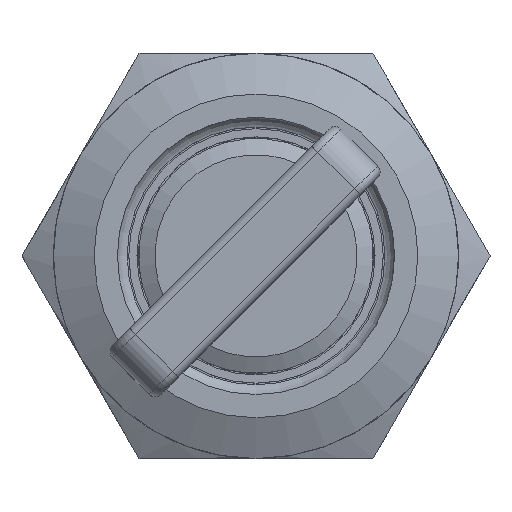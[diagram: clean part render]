
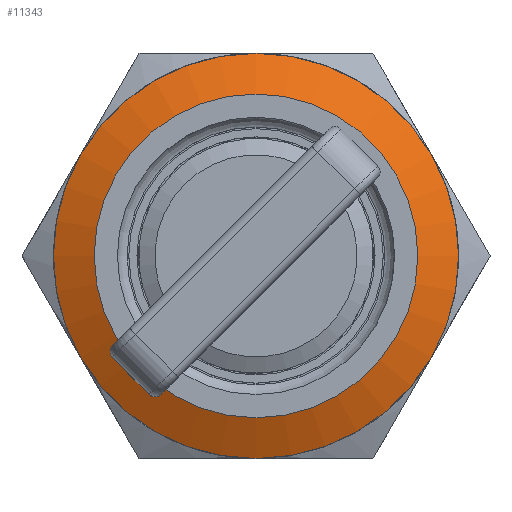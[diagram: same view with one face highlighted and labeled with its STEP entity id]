
A CAD part, top view. The second image highlights one B-rep face of the part: STEP entity #11343.
In plain terms, the highlighted conical face has half-angle 64.359 degrees and reference radius 12.425 mm.
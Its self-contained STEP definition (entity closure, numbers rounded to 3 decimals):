
#4803=CONICAL_SURFACE('',#25487,12.425,64.359);
#11343=ADVANCED_FACE('',(#12288,#12289),#4803,.T.);
#12288=FACE_BOUND('',#13318,.T.);
#12289=FACE_BOUND('',#13319,.T.);
#13318=EDGE_LOOP('',(#18680));
#13319=EDGE_LOOP('',(#18681));
#18680=ORIENTED_EDGE('',*,*,#23501,.F.);
#18681=ORIENTED_EDGE('',*,*,#23502,.F.);
#20750=VERTEX_POINT('',#37161);
#20751=VERTEX_POINT('',#37163);
#23501=EDGE_CURVE('',#20750,#20750,#24097,.T.);
#23502=EDGE_CURVE('',#20751,#20751,#24098,.T.);
#24097=CIRCLE('',#25485,9.925);
#24098=CIRCLE('',#25486,12.425);
#25485=AXIS2_PLACEMENT_3D('',#37160,#30384,#30385);
#25486=AXIS2_PLACEMENT_3D('',#37162,#30386,#30387);
#25487=AXIS2_PLACEMENT_3D('',#37164,#30388,#30389);
#30384=DIRECTION('',(0.,0.,1.));
#30385=DIRECTION('',(1.,0.,0.));
#30386=DIRECTION('',(0.,0.,-1.));
#30387=DIRECTION('',(1.,0.,0.));
#30388=DIRECTION('',(0.,0.,-1.));
#30389=DIRECTION('',(-1.,0.,0.));
#37160=CARTESIAN_POINT('',(0.,0.,1.17));
#37161=CARTESIAN_POINT('',(9.925,0.,1.17));
#37162=CARTESIAN_POINT('',(0.,0.,-0.03));
#37163=CARTESIAN_POINT('',(12.425,0.,-0.03));
#37164=CARTESIAN_POINT('',(0.,0.,-0.03));
